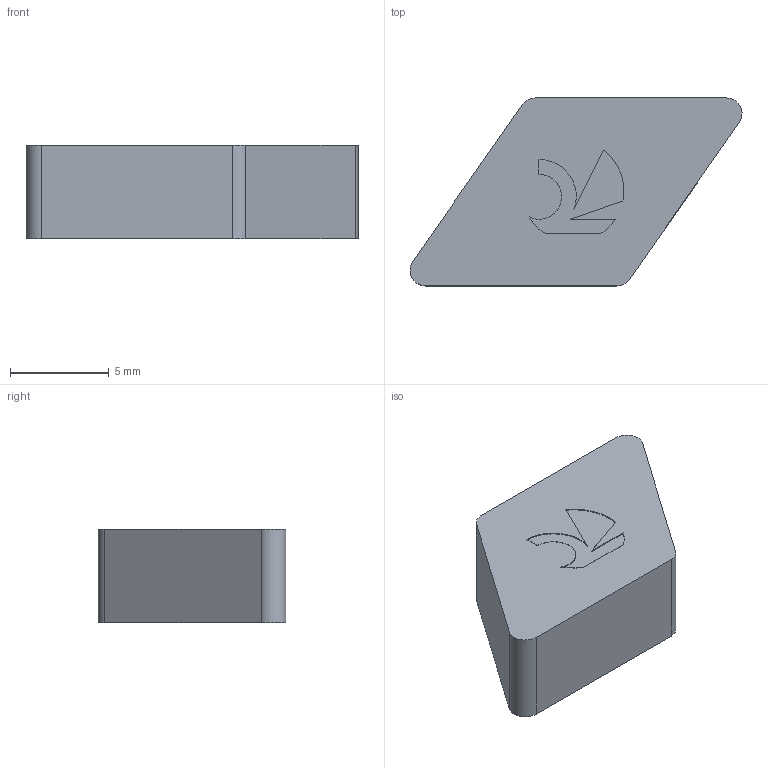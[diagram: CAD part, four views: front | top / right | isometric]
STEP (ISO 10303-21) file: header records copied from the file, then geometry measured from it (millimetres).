
FILE_DESCRIPTION(('no description'),'unknown implementation level');
FILE_NAME('solid6ZO2vsIE_kjk_iXG0SZM75_DL0g_1.STP',' ',('CIMSOURCE GmbH'),('CADClick - KiM GmbH - www.kimweb.de'),'unknown preprocess','ACIS','unknown authorization');
FILE_SCHEMA(('automotive_design'));
Length unit declared in the file: millimetre
Products named in the file (1): CUT
Bounding box: 16.83 x 9.53 x 4.76 mm (x, y, z)
Volume: 521.8 mm3; surface area: 428.8 mm2
Topology: 1 solids, 1 shells, 22 faces, 57 edges, 38 vertices
Faces by surface type: plane 12, cylinder 10
Entity records: 1366 total; most frequent: DIRECTION 127, CARTESIAN_POINT 120, STYLED_ITEM 118, PRESENTATION_STYLE_ASSIGNMENT 118, COLOUR_RGB 118, ORIENTED_EDGE 114, EDGE_CURVE 57, CURVE_STYLE 57
